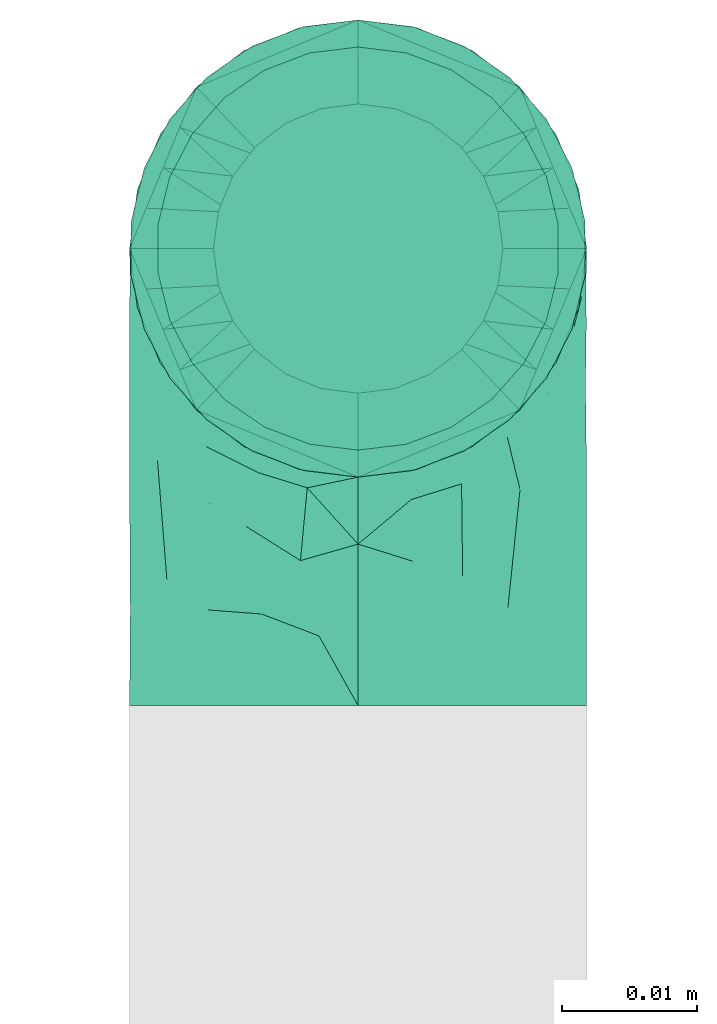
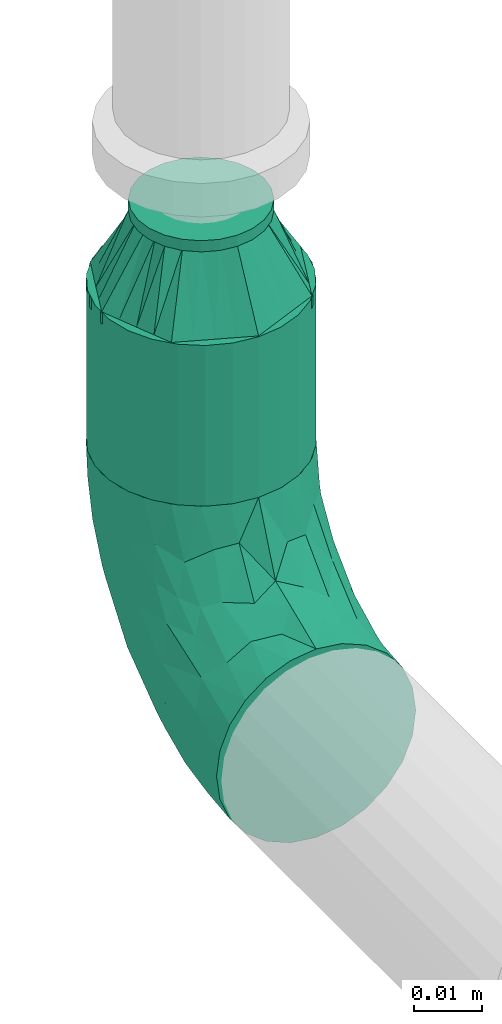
# One storey, part 20 of 31: 2 flow fittings, 1 flow segment.
"""IFC2X3 building model written with IfcOpenShell, lengths in millimetres."""

from ifc_helpers import new_model, entity, si_unit, converted_unit, derived_unit, direction, frame, origin_with_axes, origin_2d_with_axis, place, context, subcontext, project, spatial, hollow_circle, extrude, open_shell, surface_model, source, transform, mapped, type_object, element, save


model = new_model("IFC2X3")

# Units and contexts
model_context = context("Model", 3, precision=0.01, world=frame((0.0, 4.29681676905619e-09, 0.0)), true_north=direction((4.01073788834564e-13, 1.0)))
plan_context = context("Plan", 3, precision=0.01, world=frame((0.0, 4.29681676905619e-09, 0.0)), true_north=direction((4.01073788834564e-13, 1.0)))
body_context = subcontext(model_context, "Body", "Model", "MODEL_VIEW")
ifc_project = project(units=[converted_unit("PLANEANGLEUNIT", "DEGREE", entity("IfcPositiveLengthMeasure", 0.0174532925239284), si_unit("PLANEANGLEUNIT", "RADIAN"), dimensions=[0, 0, 0, 0, 0, 0, 0]), si_unit("AREAUNIT", "SQUARE_METRE"), si_unit("LENGTHUNIT", "METRE", prefix="MILLI"), si_unit("MASSUNIT", "GRAM", prefix="KILO"), si_unit("POWERUNIT", "WATT"), si_unit("PRESSUREUNIT", "PASCAL", prefix="KILO"), si_unit("FORCEUNIT", "NEWTON", prefix="KILO"), si_unit("ELECTRICVOLTAGEUNIT", "VOLT"), si_unit("ELECTRICCURRENTUNIT", "AMPERE"), si_unit("THERMODYNAMICTEMPERATUREUNIT", "DEGREE_CELSIUS"), si_unit("TIMEUNIT", "SECOND"), si_unit("VOLUMEUNIT", "CUBIC_METRE"), derived_unit("LINEARVELOCITYUNIT", [(si_unit("LENGTHUNIT", "METRE"), 1), (si_unit("TIMEUNIT", "SECOND"), -1)]), derived_unit("VOLUMETRICFLOWRATEUNIT", [(si_unit("VOLUMEUNIT", "CUBIC_METRE"), 1), (si_unit("TIMEUNIT", "SECOND"), -1)]), derived_unit("THERMALTRANSMITTANCEUNIT", [(si_unit("POWERUNIT", "WATT"), 1), (si_unit("THERMODYNAMICTEMPERATUREUNIT", "KELVIN"), -1), (si_unit("AREAUNIT", "SQUARE_METRE"), -1)]), derived_unit("SOUNDPRESSUREUNIT", [(si_unit("PRESSUREUNIT", "PASCAL"), 1)])], contexts=[model_context, plan_context])

# Site, building, storey
site_placement = place(None, frame((0.0, -4.29681676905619e-09, 0.0), z_axis=(0.0, 0.0, 1.0), x_axis=(1.0, 0.0, 0.0)))
site = spatial("IfcSite", under=ifc_project, at=site_placement, CompositionType="ELEMENT")
building_placement = place(site_placement, frame((0.0, 4.29681676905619e-09, 0.0), z_axis=(0.0, 0.0, 1.0), x_axis=(1.0, 0.0, 0.0)))
building = spatial("IfcBuilding", under=site, at=building_placement, Name="mc-building", CompositionType="ELEMENT")
storey_placement = place(building_placement, frame((0.0, 0.0, 200300.0), z_axis=(0.0, 0.0, 1.0), x_axis=(1.0, 0.0, 0.0)))
storey = spatial("IfcBuildingStorey", under=building, at=storey_placement, Name="Nivå C", CompositionType="ELEMENT", Elevation=200300.0)

# Flow fittings
pipe_fitting_type_1 = type_object("IfcPipeFittingType", Name="magi_pipe_fe_reducer_centric_short_NOR", PredefinedType="TRANSITION")
shared_shape_1 = source(origin_with_axes(), body_context, "Body", "SurfaceModel", [
    surface_model("IfcShellBasedSurfaceModel", [(14.4, 5.35, -9.26647), (14.4, 0.0, -10.7), (14.4, 2.76936, -10.33541), (14.4, 10.33541, -2.76936), (14.4, 7.56604, -7.56604), (14.4, -10.33541, -2.76936), (14.4, 9.26647, -5.35), (14.4, 0.0, 10.7), (14.4, -5.35, -9.26647), (14.4, -2.76936, -10.33541), (14.4, -7.56604, -7.56604), (14.4, -9.26647, -5.35), (14.4, 10.7, 0.0), (14.4, 10.33541, 2.76936), (14.4, 9.26647, 5.35), (14.4, 7.56604, 7.56604), (14.4, 2.76936, 10.33541), (14.4, 5.35, 9.26647), (14.4, -10.33541, 2.76936), (14.4, -7.56604, 7.56604), (14.4, -9.26647, 5.35), (14.4, -10.7, 0.0), (14.4, -2.76936, 10.33541), (14.4, -5.35, 9.26647), (12.4, 2.76936, 10.33541), (12.4, -10.33541, -2.76936), (12.4, 0.0, 10.7), (12.4, 5.35, 9.26647), (12.4, 7.56604, 7.56604), (12.4, 9.26647, 5.35), (12.4, 10.33541, 2.76936), (12.4, -10.33541, 2.76936), (12.4, -2.76936, 10.33541), (12.4, -7.56604, 7.56604), (12.4, -5.35, 9.26647), (12.4, -9.26647, 5.35), (12.4, -10.7, 0.0), (12.4, 10.33541, -2.76936), (12.4, 5.35, -9.26647), (12.4, 9.26647, -5.35), (12.4, 7.56604, -7.56604), (12.4, 2.76936, -10.33541), (12.4, -9.26647, -5.35), (12.4, -5.35, -9.26647), (12.4, -7.56604, -7.56604), (12.4, 0.0, -10.7), (12.4, -2.76936, -10.33541), (12.4, 10.7, 0.0), (-2.0, 11.9501, 11.9501), (-2.0, 0.0, 16.9), (-2.0, 4.37404, 16.32415), (-2.0, 8.45, 14.63583), (-2.0, 14.63583, 8.45), (-2.0, 16.32415, 4.37404), (-2.0, -16.32415, 4.37404), (-2.0, -8.45, 14.63583), (-2.0, -14.63583, 8.45), (-2.0, -11.9501, 11.9501), (-2.0, -4.37404, 16.32415), (-2.0, -16.32415, -4.37404), (-2.0, -16.9, 0.0), (-2.0, -8.45, -14.63583), (-2.0, 16.32415, -4.37404), (-2.0, 11.9501, -11.9501), (-2.0, 14.63583, -8.45), (-2.0, 8.45, -14.63583), (-2.0, 4.37404, -16.32415), (-2.0, 0.0, -16.9), (-2.0, -11.9501, -11.9501), (-2.0, -14.63583, -8.45), (-2.0, -4.37404, -16.32415), (-2.0, 16.9, 0.0), (0.0, 4.37404, -16.32415), (0.0, 8.45, -14.63583), (0.0, 11.9501, -11.9501), (0.0, 0.0, -16.9), (0.0, 16.32415, -4.37404), (0.0, 16.32415, 4.37404), (0.0, 14.63583, -8.45), (0.0, -8.45, -14.63583), (0.0, -4.37404, -16.32415), (0.0, -11.9501, -11.9501), (0.0, -16.32415, -4.37404), (0.0, -14.63583, -8.45), (0.0, -16.32415, 4.37404), (0.0, 16.9, 0.0), (0.0, 14.63583, 8.45), (0.0, 11.9501, 11.9501), (0.0, 4.37404, 16.32415), (0.0, 8.45, 14.63583), (0.0, 0.0, 16.9), (0.0, -14.63583, 8.45), (0.0, -16.9, 0.0), (0.0, -8.45, 14.63583), (0.0, -11.9501, 11.9501), (0.0, -4.37404, 16.32415), (12.4, 9.3625, -2.31662), (0.0, 14.42505, -5.97505), (0.0, 15.66253, -2.98753), (12.4, -6.6875, -6.94985), (0.0, -13.18758, -8.96258), (0.0, 2.98753, -15.66253), (12.4, 0.0, -9.26647), (12.4, 6.6875, -6.94985), (0.0, 8.96258, -13.18758), (12.4, -9.3625, -2.31662), (0.0, -15.66253, -2.98753), (0.0, -14.42505, -5.97505), (0.0, 5.97505, -14.42505), (0.0, -2.98753, -15.66253), (0.0, -8.96258, -13.18758), (0.0, 13.18758, -8.96258), (12.4, 8.025, -4.63324), (12.4, -2.675, -9.26647), (12.4, 2.675, -9.26647), (0.0, -5.97505, -14.42505), (12.4, -8.025, -4.63324), (12.4, -9.3625, 2.31662), (0.0, -14.42505, 5.97505), (0.0, -15.66253, 2.98753), (12.4, 6.6875, 6.94985), (0.0, 13.18758, 8.96258), (0.0, -2.98753, 15.66253), (12.4, 0.0, 9.26647), (12.4, -6.6875, 6.94985), (0.0, -8.96258, 13.18758), (12.4, 9.3625, 2.31662), (0.0, 15.66253, 2.98753), (0.0, 14.42505, 5.97505), (0.0, -5.97505, 14.42505), (0.0, 2.98753, 15.66253), (0.0, 8.96258, 13.18758), (0.0, -13.18758, 8.96258), (12.4, -8.025, 4.63324), (12.4, 2.675, 9.26647), (12.4, -2.675, 9.26647), (0.0, 5.97505, 14.42505), (12.4, 8.025, 4.63324)], [open_shell([[[0, 1, 2]], [[3, 0, 4]], [[5, 0, 3]], [[3, 4, 6]], [[7, 5, 3]], [[1, 8, 9]], [[1, 0, 8]], [[10, 5, 11]], [[5, 10, 8]], [[0, 5, 8]], [[3, 12, 13]], [[13, 14, 15]], [[13, 15, 16]], [[7, 3, 16]], [[16, 15, 17]], [[7, 18, 5]], [[18, 19, 20]], [[21, 5, 18]], [[19, 22, 23]], [[22, 19, 18]], [[7, 22, 18]], [[13, 16, 3]], [[24, 25, 26]], [[27, 25, 24]], [[28, 29, 30]], [[28, 25, 27]], [[31, 26, 25]], [[32, 33, 34]], [[33, 32, 31]], [[33, 31, 35]], [[32, 26, 31]], [[31, 25, 36]], [[30, 37, 28]], [[25, 28, 37]], [[38, 37, 39]], [[37, 38, 25]], [[38, 39, 40]], [[41, 25, 38]], [[42, 43, 44]], [[43, 42, 25]], [[43, 45, 46]], [[43, 25, 41]], [[41, 45, 43]], [[37, 30, 47]], [[25, 5, 36]], [[42, 11, 25]], [[8, 44, 43]], [[42, 44, 10]], [[9, 43, 46]], [[25, 11, 5]], [[5, 21, 36]], [[9, 8, 43]], [[10, 44, 8]], [[10, 11, 42]], [[1, 9, 46]], [[46, 45, 1]], [[41, 2, 45]], [[38, 0, 41]], [[6, 40, 39]], [[38, 40, 4]], [[3, 39, 37]], [[38, 4, 0]], [[0, 2, 41]], [[12, 3, 37]], [[6, 39, 3]], [[6, 4, 40]], [[47, 12, 37]], [[45, 2, 1]], [[30, 13, 47]], [[29, 14, 30]], [[17, 28, 27]], [[29, 28, 15]], [[16, 27, 24]], [[30, 14, 13]], [[13, 12, 47]], [[16, 17, 27]], [[15, 28, 17]], [[15, 14, 29]], [[7, 16, 24]], [[24, 26, 7]], [[32, 22, 26]], [[34, 23, 32]], [[20, 33, 35]], [[34, 33, 19]], [[18, 35, 31]], [[34, 19, 23]], [[23, 22, 32]], [[21, 18, 31]], [[20, 35, 18]], [[20, 19, 33]], [[36, 21, 31]], [[26, 22, 7]], [[48, 49, 50]], [[48, 50, 51]], [[48, 52, 53]], [[48, 53, 49]], [[49, 53, 54]], [[55, 56, 57]], [[55, 58, 49]], [[56, 55, 49]], [[49, 54, 56]], [[54, 59, 60]], [[54, 53, 61]], [[53, 62, 63]], [[63, 62, 64]], [[63, 65, 66]], [[61, 53, 63]], [[67, 63, 66]], [[59, 68, 69]], [[68, 59, 61]], [[61, 67, 70]], [[59, 54, 61]], [[63, 67, 61]], [[53, 71, 62]], [[72, 73, 74]], [[75, 72, 74]], [[74, 76, 77]], [[76, 74, 78]], [[74, 77, 79]], [[75, 79, 80]], [[75, 74, 79]], [[81, 82, 83]], [[82, 81, 79]], [[79, 84, 82]], [[77, 76, 85]], [[77, 86, 87]], [[77, 87, 88]], [[88, 84, 79]], [[88, 87, 89]], [[84, 88, 90]], [[90, 91, 84]], [[92, 82, 84]], [[91, 93, 94]], [[91, 90, 93]], [[93, 90, 95]], [[79, 77, 88]], [[59, 82, 60]], [[69, 83, 59]], [[79, 68, 61]], [[69, 68, 81]], [[80, 61, 70]], [[59, 83, 82]], [[82, 92, 60]], [[80, 79, 61]], [[81, 68, 79]], [[81, 83, 69]], [[75, 80, 70]], [[70, 67, 75]], [[66, 72, 67]], [[65, 73, 66]], [[78, 63, 64]], [[65, 63, 74]], [[76, 64, 62]], [[65, 74, 73]], [[73, 72, 66]], [[85, 76, 62]], [[78, 64, 76]], [[78, 74, 63]], [[71, 85, 62]], [[67, 72, 75]], [[53, 77, 71]], [[52, 86, 53]], [[89, 48, 51]], [[52, 48, 87]], [[88, 51, 50]], [[53, 86, 77]], [[77, 85, 71]], [[88, 89, 51]], [[87, 48, 89]], [[87, 86, 52]], [[90, 88, 50]], [[50, 49, 90]], [[58, 95, 49]], [[55, 93, 58]], [[91, 57, 56]], [[55, 57, 94]], [[84, 56, 54]], [[55, 94, 93]], [[93, 95, 58]], [[92, 84, 54]], [[91, 56, 84]], [[91, 94, 57]], [[60, 92, 54]], [[49, 95, 90]], [[27, 34, 47]], [[47, 34, 43]], [[43, 38, 47]], [[43, 34, 36]], [[90, 87, 94]], [[92, 94, 87]], [[87, 74, 92]], [[75, 92, 74]], [[81, 92, 75]], [[74, 87, 85]], [[96, 97, 98]], [[81, 99, 100]], [[101, 102, 75]], [[98, 85, 47]], [[74, 103, 104]], [[104, 103, 38]], [[105, 106, 107]], [[38, 108, 104]], [[102, 109, 75]], [[110, 99, 81]], [[47, 96, 98]], [[103, 111, 112]], [[109, 102, 113]], [[36, 92, 106]], [[102, 101, 114]], [[110, 115, 43]], [[96, 112, 97]], [[107, 116, 105]], [[36, 106, 105]], [[113, 115, 109]], [[43, 115, 113]], [[116, 107, 100]], [[108, 38, 114]], [[111, 103, 74]], [[111, 97, 112]], [[99, 110, 43]], [[116, 100, 99]], [[101, 108, 114]], [[117, 118, 119]], [[87, 120, 121]], [[122, 123, 90]], [[119, 92, 36]], [[94, 124, 125]], [[125, 124, 34]], [[126, 127, 128]], [[34, 129, 125]], [[123, 130, 90]], [[131, 120, 87]], [[36, 117, 119]], [[124, 132, 133]], [[130, 123, 134]], [[47, 85, 127]], [[123, 122, 135]], [[131, 136, 27]], [[117, 133, 118]], [[128, 137, 126]], [[47, 127, 126]], [[134, 136, 130]], [[27, 136, 134]], [[137, 128, 121]], [[129, 34, 135]], [[132, 124, 94]], [[132, 118, 133]], [[120, 131, 27]], [[137, 121, 120]], [[122, 129, 135]]])]),
])
flow_fitting_1_placement = place(storey_placement, frame((606102.03234, 403933.19532, 2962.64799999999), z_axis=(-1.0, 0.0, 0.0), x_axis=(0.0, 0.0, 1.0)))
element("IfcFlowFitting", 1, at=flow_fitting_1_placement, inside=storey, type_object=pipe_fitting_type_1, Name="magi_pipe_fe_reducer_centric_short_NOR", context=body_context, shape_type="MappedRepresentation", body=[
    mapped(shared_shape_1, transform((0.0, 0.0, 0.0), scale=1.0)),
])
pipe_fitting_type_2 = type_object("IfcPipeFittingType", Name="magi_pipe_fe_elbow_short_001", PredefinedType="BEND")
shared_shape_2 = source(origin_with_axes(), body_context, "Body", "SurfaceModel", [
    surface_model("IfcShellBasedSurfaceModel", [(-33.8, 8.45, -14.63583), (-33.8, 4.37404, -16.32415), (-33.8, 11.9501, -11.9501), (-33.8, -11.9501, -11.9501), (-33.8, -14.63583, -8.45), (-33.8, -8.45, -14.63583), (-33.8, 0.0, -16.9), (-33.8, -4.37404, -16.32415), (-33.8, -4.37404, 16.32415), (-33.8, 0.0, 16.9), (-33.8, -8.45, 14.63583), (-33.8, 16.32415, -4.37404), (-33.8, 14.63583, -8.45), (-33.8, -16.32415, -4.37404), (-33.8, -16.9, 0.0), (-33.8, -16.32415, 4.37404), (-33.8, 11.9501, 11.9501), (-33.8, 14.63583, 8.45), (-33.8, 16.32415, 4.37404), (-33.8, 4.37404, 16.32415), (-33.8, 8.45, 14.63583), (-33.8, -14.63583, 8.45), (-33.8, -11.9501, 11.9501), (-33.8, 16.9, 0.0), (-11.9501, 33.8, -11.9501), (0.0, 33.8, -16.9), (-4.37404, 33.8, -16.32415), (-8.45, 33.8, -14.63583), (-14.63583, 33.8, -8.45), (-16.32415, 33.8, -4.37404), (14.63583, 33.8, -8.45), (8.45, 33.8, 14.63583), (16.32415, 33.8, -4.37404), (8.45, 33.8, -14.63583), (11.9501, 33.8, -11.9501), (4.37404, 33.8, -16.32415), (16.32415, 33.8, 4.37404), (16.9, 33.8, 0.0), (-11.9501, 33.8, 11.9501), (-16.32415, 33.8, 4.37404), (-14.63583, 33.8, 8.45), (-8.45, 33.8, 14.63583), (-4.37404, 33.8, 16.32415), (11.9501, 33.8, 11.9501), (14.63583, 33.8, 8.45), (0.0, 33.8, 16.9), (4.37404, 33.8, 16.32415), (-16.9, 33.8, 0.0), (-24.79389, -13.12945, 9.48721), (-22.19287, -9.75018, 12.59315), (-24.09897, -14.97035, 0.0), (-14.93934, -10.76256, 8.5297), (-22.46095, -14.75051, 5.27077), (14.75051, 22.46094, 5.27077), (11.9251, 13.23888, 4.33236), (13.04069, 14.39795, 0.0), (7.71387, 13.68847, 11.55891), (9.75018, 22.19287, 12.59315), (4.10169, 13.0571, 14.04018), (-24.84007, -6.39063, 15.2048), (-25.81779, -2.23879, 16.61097), (-23.66549, 2.59054, 16.87119), (-26.50418, 14.06512, 11.08152), (-24.21253, 17.66365, 7.72657), (-29.58514, 15.86957, 7.00283), (-6.17382, -7.5455, 0.0), (-13.23888, -11.9251, 4.33236), (-14.39795, -13.04069, 0.0), (-17.81434, 18.87373, 11.97104), (-6.30846, 29.15138, 15.82987), (-2.31622, 25.28002, 16.85849), (-29.23923, 10.23435, 13.77053), (-1.45439, -2.85688, 7.61475), (-0.28326, 0.34872, 10.09509), (-5.74484, -4.04709, 10.4122), (-4.41137, 11.31918, 16.59407), (-8.39727, 3.10034, 15.7812), (-1.72649, 9.1306, 15.53089), (-17.39909, 24.75344, 7.64977), (-26.19233, 20.0512, 0.0), (-28.14518, 17.29657, 4.25857), (-26.05147, 6.6281, 15.96447), (-5.87354, 16.61944, 16.86968), (-12.51807, 12.51807, 16.48937), (-10.06312, 7.38516, 16.81295), (-3.01882, 3.01882, 13.81718), (-13.0571, -4.10169, 14.04018), (-16.82553, -0.15166, 16.38038), (10.76256, 14.93934, 8.5297), (13.12945, 24.79389, 9.48721), (6.39063, 24.84007, 15.2048), (2.23879, 25.81779, 16.61097), (-13.68847, -7.71387, 11.55891), (14.97035, 24.09897, 0.0), (-7.30894, 22.89991, 16.09489), (-10.67958, 26.17414, 14.008), (-12.78295, 18.26924, 15.06066), (-13.88562, 22.45231, 12.93244), (-18.04944, 15.16501, 14.04434), (-23.11658, 20.08178, 4.02986), (-21.84989, 21.84989, 0.0), (-18.55817, 25.48277, 3.93065), (-13.95142, 26.94732, 11.03289), (-18.57098, 7.23906, 16.59756), (-16.58335, 4.14122, 16.89279), (-17.96666, 11.46709, 15.63151), (-9.84453, 17.54304, 16.18938), (0.15166, 16.82553, 16.38038), (-23.27207, 11.47201, 14.23154), (3.84842, 5.86994, 10.70473), (-8.0212, -7.54413, 7.93275), (1.00345, -2.19508, 4.57414), (5.13203, 3.01004, 5.90201), (5.24161, 1.7543, 2.53265), (8.70457, 7.04947, 3.99182), (-20.0512, 26.19233, 0.0), (8.4852, 8.76699, 7.09296), (-4.55488, -6.72064, 4.90681), (2.05031, -2.05031, 0.0), (7.5455, 6.17382, 0.0), (-26.75399, 2.1369, -16.845), (-14.61995, 24.73803, -11.27736), (-28.45274, -13.45335, -9.81895), (-26.00469, 6.63555, -15.96645), (-23.06726, 20.04573, -4.26202), (-13.80647, -4.26506, -14.17873), (-14.67501, -0.21081, -16.07388), (-6.7902, -0.2828, -13.8478), (-24.53586, 11.08096, -14.13417), (-26.72048, 14.00837, -11.05776), (10.0967, 24.44989, -12.75976), (5.83237, 21.40218, -15.03047), (6.66249, 28.54238, -15.38093), (-20.38182, 15.48705, -12.74596), (12.53268, 21.23441, -9.15363), (12.54494, 15.67504, -5.54878), (9.7522, 12.89279, -8.66343), (-15.65186, 19.64213, -13.01327), (-12.03528, 20.66498, -14.67665), (-15.61907, 15.61906, -14.83879), (-25.56551, -15.26206, 0.0), (-24.65452, -15.12934, -5.50955), (13.45335, 28.45274, -9.81895), (15.12934, 24.65452, -5.50955), (-7.35442, -8.31014, -5.65563), (-15.67504, -12.54494, -5.54878), (-24.44989, -10.0967, -12.75976), (0.16522, 0.41303, -9.71728), (-5.70658, -5.33066, -8.89288), (-5.13869, -2.37198, -11.53565), (-21.23441, -12.53268, -9.15363), (0.71146, 7.93863, -14.09382), (0.21081, 14.67501, -16.07388), (3.49291, 14.42772, -14.76381), (-24.89911, -2.13088, -16.591), (-28.54238, -6.66249, -15.38093), (-18.44386, -7.71663, -13.26957), (2.13088, 24.89911, -16.591), (-28.64342, 17.44413, -2.89318), (1.70017, -1.28722, -5.09504), (-16.57067, 26.81947, -7.36596), (-17.69055, 27.4263, -3.76405), (-12.89279, -9.7522, -8.66343), (-5.96611, 5.96611, -15.95814), (-20.53709, 20.09345, -8.28985), (-2.1369, 26.75399, -16.845), (-6.89872, 24.58781, -16.02578), (-10.60739, 26.53157, -13.98044), (-21.40218, -5.83237, -15.03047), (2.93192, 5.89627, -11.55917), (6.89393, 12.61842, -11.82233), (5.58056, 5.95325, -8.79455), (-3.99512, 18.61798, -16.89635), (8.31014, 7.35442, -5.65563), (-9.1383, 9.86148, -16.89041), (-9.99983, 16.02119, -16.39699), (-16.68576, 9.78031, -16.34199), (-27.01915, 16.61158, -7.12979), (15.26206, 25.56551, 0.0), (-18.61798, 3.99512, -16.89635), (-19.37495, 27.82495, 0.0), (-12.61842, -6.89393, -11.82233), (-18.84705, 19.14018, -10.96545)], [open_shell([[[0, 1, 2]], [[3, 4, 5]], [[6, 7, 5]], [[8, 9, 10]], [[1, 6, 2]], [[11, 12, 2]], [[4, 2, 6]], [[2, 13, 10]], [[5, 4, 6]], [[2, 4, 13]], [[14, 15, 13]], [[11, 2, 16]], [[11, 17, 18]], [[11, 16, 17]], [[19, 20, 16]], [[16, 2, 10]], [[19, 16, 10]], [[21, 22, 15]], [[22, 13, 15]], [[22, 10, 13]], [[10, 9, 19]], [[11, 18, 23]], [[24, 25, 26]], [[24, 26, 27]], [[24, 28, 29]], [[25, 24, 30]], [[31, 32, 24]], [[33, 30, 34]], [[33, 35, 25]], [[25, 30, 33]], [[32, 30, 24]], [[32, 36, 37]], [[38, 24, 29]], [[39, 40, 29]], [[40, 38, 29]], [[38, 41, 42]], [[38, 31, 24]], [[31, 38, 42]], [[36, 43, 44]], [[36, 32, 43]], [[31, 45, 46]], [[32, 31, 43]], [[42, 45, 31]], [[39, 29, 47]], [[22, 48, 49]], [[15, 14, 50]], [[51, 48, 52]], [[53, 54, 55]], [[48, 22, 21]], [[15, 52, 21]], [[56, 57, 58]], [[49, 10, 22]], [[49, 59, 10]], [[9, 60, 61]], [[62, 63, 64]], [[65, 66, 67]], [[57, 43, 31]], [[62, 68, 63]], [[42, 69, 70]], [[20, 71, 16]], [[8, 60, 9]], [[72, 73, 74]], [[75, 76, 77]], [[16, 62, 17]], [[40, 39, 78]], [[79, 23, 80]], [[64, 18, 17]], [[9, 61, 19]], [[19, 81, 20]], [[82, 83, 84]], [[74, 85, 86]], [[59, 86, 87]], [[88, 89, 57]], [[90, 31, 46]], [[44, 53, 36]], [[46, 45, 91]], [[54, 53, 88]], [[44, 89, 53]], [[92, 86, 49]], [[89, 44, 43]], [[10, 59, 8]], [[53, 55, 93]], [[93, 36, 53]], [[66, 52, 67]], [[94, 82, 70]], [[95, 96, 94]], [[97, 98, 96]], [[79, 99, 100]], [[41, 38, 95]], [[101, 100, 99]], [[68, 78, 63]], [[42, 41, 69]], [[23, 18, 80]], [[95, 94, 69]], [[78, 101, 99]], [[38, 102, 95]], [[70, 45, 42]], [[97, 95, 102]], [[15, 50, 52]], [[90, 57, 31]], [[57, 90, 58]], [[81, 19, 61]], [[103, 104, 84]], [[105, 81, 103]], [[38, 40, 102]], [[106, 96, 83]], [[94, 106, 82]], [[91, 70, 107]], [[71, 62, 16]], [[62, 108, 98]], [[86, 59, 49]], [[67, 52, 50]], [[60, 59, 87]], [[92, 49, 51]], [[86, 85, 76]], [[91, 90, 46]], [[37, 36, 93]], [[107, 77, 58]], [[107, 58, 90]], [[58, 85, 109]], [[110, 74, 92]], [[72, 74, 110]], [[66, 51, 52]], [[72, 111, 112]], [[113, 114, 112]], [[56, 88, 57]], [[52, 48, 21]], [[49, 48, 51]], [[57, 89, 43]], [[53, 89, 88]], [[103, 81, 61]], [[71, 81, 108]], [[18, 64, 80]], [[63, 78, 99]], [[47, 115, 101]], [[101, 115, 100]], [[40, 78, 102]], [[68, 102, 78]], [[97, 96, 95]], [[105, 98, 108]], [[103, 84, 83]], [[107, 70, 82]], [[76, 84, 87]], [[82, 84, 75]], [[70, 91, 45]], [[90, 91, 107]], [[59, 60, 8]], [[61, 60, 87]], [[73, 85, 74]], [[109, 112, 116]], [[103, 61, 104]], [[105, 103, 83]], [[96, 105, 83]], [[81, 105, 108]], [[96, 98, 105]], [[62, 98, 68]], [[61, 87, 104]], [[87, 84, 104]], [[86, 76, 87]], [[77, 76, 85]], [[58, 77, 85]], [[75, 77, 107]], [[82, 75, 107]], [[76, 75, 84]], [[81, 71, 20]], [[62, 71, 108]], [[95, 69, 41]], [[70, 69, 94]], [[62, 64, 17]], [[80, 63, 99]], [[63, 80, 64]], [[80, 99, 79]], [[66, 65, 117]], [[110, 66, 117]], [[112, 114, 116]], [[118, 117, 65]], [[110, 92, 51]], [[112, 111, 113]], [[119, 55, 54]], [[74, 86, 92]], [[58, 109, 56]], [[116, 56, 109]], [[66, 110, 51]], [[72, 110, 117]], [[111, 72, 117]], [[73, 112, 109]], [[117, 118, 111]], [[113, 111, 118]], [[118, 119, 113]], [[114, 119, 54]], [[119, 114, 113]], [[116, 54, 88]], [[54, 116, 114]], [[116, 88, 56]], [[112, 73, 72]], [[85, 73, 109]], [[78, 39, 101]], [[47, 101, 39]], [[102, 68, 97]], [[97, 68, 98]], [[82, 106, 83]], [[94, 96, 106]], [[1, 120, 6]], [[28, 24, 121]], [[3, 122, 4]], [[0, 123, 1]], [[100, 124, 79]], [[125, 126, 127]], [[128, 2, 129]], [[130, 131, 132]], [[128, 129, 133]], [[134, 135, 136]], [[137, 138, 139]], [[128, 0, 2]], [[67, 140, 141]], [[134, 142, 143]], [[141, 13, 4]], [[144, 65, 145]], [[146, 3, 5]], [[147, 148, 149]], [[145, 141, 150]], [[151, 152, 153]], [[154, 7, 6]], [[5, 155, 146]], [[150, 146, 156]], [[155, 5, 7]], [[143, 135, 134]], [[35, 157, 25]], [[23, 79, 158]], [[148, 159, 144]], [[160, 161, 29]], [[145, 162, 144]], [[163, 152, 151]], [[29, 28, 160]], [[121, 164, 160]], [[33, 34, 130]], [[25, 165, 26]], [[26, 165, 166]], [[142, 34, 30]], [[24, 27, 167]], [[124, 161, 164]], [[157, 35, 132]], [[155, 154, 168]], [[123, 0, 128]], [[169, 170, 171]], [[172, 157, 152]], [[26, 166, 27]], [[132, 35, 33]], [[142, 130, 34]], [[168, 154, 126]], [[136, 135, 173]], [[133, 137, 139]], [[2, 12, 129]], [[170, 131, 130]], [[30, 32, 143]], [[172, 174, 175]], [[176, 123, 128]], [[158, 177, 11]], [[135, 55, 119]], [[167, 27, 166]], [[175, 166, 172]], [[137, 167, 138]], [[122, 141, 4]], [[140, 14, 13]], [[32, 37, 178]], [[170, 130, 134]], [[152, 157, 131]], [[165, 157, 172]], [[153, 170, 151]], [[152, 163, 174]], [[168, 125, 156]], [[122, 146, 150]], [[120, 154, 6]], [[179, 174, 126]], [[179, 126, 154]], [[126, 163, 127]], [[162, 145, 150]], [[140, 13, 141]], [[32, 178, 143]], [[55, 143, 178]], [[177, 129, 12]], [[128, 133, 139]], [[176, 128, 139]], [[120, 123, 179]], [[121, 160, 28]], [[161, 100, 180]], [[166, 175, 138]], [[121, 24, 167]], [[161, 47, 29]], [[79, 124, 158]], [[124, 164, 177]], [[161, 124, 100]], [[136, 171, 170]], [[127, 163, 151]], [[147, 171, 159]], [[148, 144, 162]], [[127, 151, 169]], [[127, 181, 125]], [[129, 177, 164]], [[12, 11, 177]], [[159, 65, 144]], [[67, 141, 145]], [[143, 55, 135]], [[135, 119, 173]], [[123, 120, 1]], [[154, 120, 179]], [[157, 165, 25]], [[166, 165, 172]], [[172, 152, 174]], [[176, 139, 175]], [[126, 174, 163]], [[176, 174, 179]], [[174, 176, 175]], [[123, 176, 179]], [[150, 181, 162]], [[127, 149, 181]], [[181, 148, 162]], [[159, 148, 147]], [[171, 136, 173]], [[170, 134, 136]], [[159, 171, 173]], [[171, 147, 169]], [[169, 147, 149]], [[151, 170, 169]], [[164, 182, 129]], [[182, 121, 137]], [[181, 149, 148]], [[169, 149, 127]], [[182, 137, 133]], [[167, 137, 121]], [[166, 138, 167]], [[175, 139, 138]], [[129, 182, 133]], [[121, 182, 164]], [[161, 160, 164]], [[47, 161, 180]], [[177, 158, 124]], [[23, 158, 11]], [[130, 132, 33]], [[157, 132, 131]], [[143, 142, 30]], [[130, 142, 134]], [[154, 155, 7]], [[146, 155, 168]], [[146, 122, 3]], [[141, 122, 150]], [[152, 131, 153]], [[159, 119, 118]], [[67, 145, 65]], [[170, 153, 131]], [[119, 159, 173]], [[159, 118, 65]], [[156, 125, 181]], [[126, 125, 168]], [[150, 156, 181]], [[168, 156, 146]]])]),
])
flow_fitting_2_placement = place(storey_placement, frame((606102.03234, 403933.19532, 2900.0), z_axis=(1.0, 0.0, 0.0), x_axis=(0.0, 1.0, 0.0)))
element("IfcFlowFitting", 2, at=flow_fitting_2_placement, inside=storey, type_object=pipe_fitting_type_2, Name="magi_pipe_fe_elbow_short_001", context=body_context, shape_type="MappedRepresentation", body=[
    mapped(shared_shape_2, transform((0.0, 0.0, 0.0), scale=1.0)),
])

# Flow segment
pipe_segment_type = type_object("IfcPipeSegmentType", Name="Stålrør normaltykke", PredefinedType="RIGIDSEGMENT")
shared_shape_3 = source(origin_with_axes(), body_context, "Body", "SweptSolid", [
    extrude(hollow_circle(Radius=16.9, WallThickness=2.0, at=origin_2d_with_axis()), frame((0.0, 0.0, 0.0), z_axis=(1.0, 0.0, 0.0), x_axis=(0.0, 1.0, 0.0)), (0.0, 0.0, 1.0), 28.8),
])
flow_segment_placement = place(storey_placement, frame((606102.03234, 403933.19532, 2933.79999999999), z_axis=(-1.0, 0.0, 0.0), x_axis=(0.0, 0.0, 1.0)))
element("IfcFlowSegment", 3, at=flow_segment_placement, inside=storey, type_object=pipe_segment_type, Name="Stålrør normaltykke", context=body_context, shape_type="MappedRepresentation", body=[
    mapped(shared_shape_3, transform((0.0, 0.0, 0.0), scale=1.0)),
])

save(model, "model.ifc")
